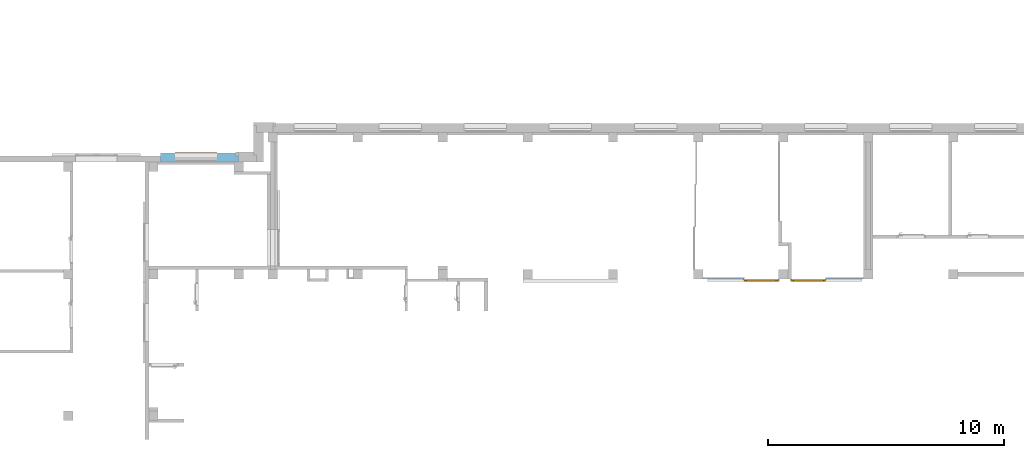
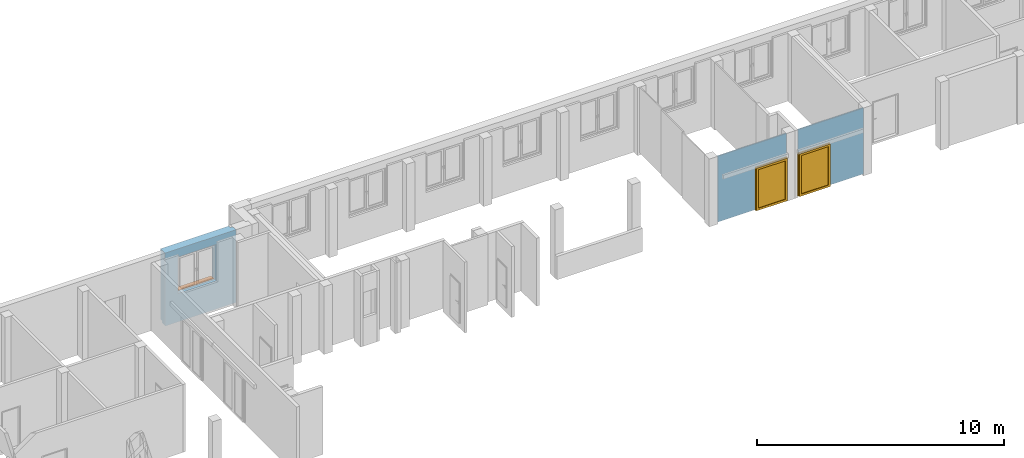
# One storey, part 33 of 37: 2 doors, 1 proxy, 3 openings, plus 3 elements that do not belong to this part.
"""IFC4 building model written with IfcOpenShell, lengths in metres."""

import ifcopenshell
import ifcopenshell.guid

model = None  # the IFC model being written
_history = None  # IfcOwnerHistory: only IFC2X3 demands one
_inside = {}  # id of a spatial element -> (the spatial element, [elements in it])
_under = {}  # id of a project, library or spatial element -> (it, [spatial elements below it])
_declared = {}  # id of a project -> (the project, [libraries it declares])
_typed = {}  # id of a type object -> (the type object, [elements of that type])
_made_of = {}  # id of a material, layer set ... -> (it, [elements and type objects made of it])


def new_model(schema):
    """Start an empty IFC model of exactly this schema.

    Asked for "IFC4X3", IfcOpenShell would pick the latest addendum, in which some entities
    have other attributes; the version numbers below select the first issue.
    IFC2X3 requires an IfcOwnerHistory on every rooted entity: one is made here for all.
    """
    global model, _history
    if schema == "IFC4X3":
        model = ifcopenshell.file(schema_version=(4, 3, 0, 0))
    else:
        model = ifcopenshell.file(schema=schema)
    _inside.clear()
    _under.clear()
    _declared.clear()
    _typed.clear()
    _made_of.clear()
    _history = None
    if model.schema == "IFC2X3":
        org = make("IfcOrganization", Name="unknown")
        user = make(
            "IfcPersonAndOrganization",
            ThePerson=make("IfcPerson", FamilyName="unknown"),
            TheOrganization=org,
        )
        app = make(
            "IfcApplication",
            ApplicationDeveloper=org,
            Version="unknown",
            ApplicationFullName="unknown",
            ApplicationIdentifier="unknown",
        )
        _history = make(
            "IfcOwnerHistory",
            OwningUser=user,
            OwningApplication=app,
            ChangeAction="ADDED",
            CreationDate=0,
        )
    return model


def make(cls, **values):
    """One entity of the class cls with the attributes given. An attribute that is None is left unset."""
    return model.create_entity(
        cls, **{name: value for name, value in values.items() if value is not None}
    )


def entity(cls, *values):
    """Any entity or typed value of the class cls, its attributes in the order of the schema. None: left unset."""
    e = model.create_entity(cls)
    for i, value in enumerate(values):
        if value is not None:
            e[i] = value
    return e


def rooted(cls, **values):
    """An entity with a GlobalId (a new one), such as an element, a storey or a relation."""
    return make(cls, GlobalId=ifcopenshell.guid.new(), OwnerHistory=_history, **values)


def si_unit(unit_type, name, prefix=None):
    """IfcSIUnit, for example si_unit("LENGTHUNIT", "METRE", prefix="MILLI")."""
    return make("IfcSIUnit", UnitType=unit_type, Prefix=prefix, Name=name)


def converted_unit(unit_type, name, factor, base, dimensions=None, offset=None):
    """IfcConversionBasedUnit, such as the inch: factor (a typed value) times the base unit."""
    return make(
        "IfcConversionBasedUnit"
        if offset is None
        else "IfcConversionBasedUnitWithOffset",
        ConversionOffset=offset,
        Dimensions=None
        if dimensions is None
        else entity("IfcDimensionalExponents", *dimensions),
        UnitType=unit_type,
        Name=name,
        ConversionFactor=make(
            "IfcMeasureWithUnit", ValueComponent=factor, UnitComponent=base
        ),
    )


def derived_unit(unit_type, elements):
    """IfcDerivedUnit: a product of units, each with its exponent."""
    return make(
        "IfcDerivedUnit",
        Elements=[
            make("IfcDerivedUnitElement", Unit=unit, Exponent=power)
            for unit, power in elements
        ],
        UnitType=unit_type,
    )


def assignment(units):
    """IfcUnitAssignment: the units of a project."""
    return None if units is None else make("IfcUnitAssignment", Units=units)


def point(xyz):
    """IfcCartesianPoint."""
    return None if xyz is None else make("IfcCartesianPoint", Coordinates=xyz)


def direction(xyz):
    """IfcDirection."""
    return None if xyz is None else make("IfcDirection", DirectionRatios=xyz)


def frame(location, z_axis=None, x_axis=None):
    """IfcAxis2Placement3D, a coordinate frame: its origin and axes. An axis left out is left unset."""
    return make(
        "IfcAxis2Placement3D",
        Location=point(location),
        Axis=direction(z_axis),
        RefDirection=direction(x_axis),
    )


def frame_2d(location, x_axis=None):
    """IfcAxis2Placement2D, a coordinate frame in the plane: its origin and x axis."""
    return make(
        "IfcAxis2Placement2D", Location=point(location), RefDirection=direction(x_axis)
    )


def origin():
    """The frame at (0, 0, 0) with its axes left unset."""
    return frame((0.0, 0.0, 0.0))


def origin_with_axes():
    """The frame at (0, 0, 0) with the z axis (0, 0, 1) and the x axis (1, 0, 0) written out."""
    return frame((0.0, 0.0, 0.0), z_axis=(0.0, 0.0, 1.0), x_axis=(1.0, 0.0, 0.0))


def place(relative_to, where):
    """IfcLocalPlacement: puts the frame where relative to a parent placement (None: the world)."""
    return make(
        "IfcLocalPlacement", PlacementRelTo=relative_to, RelativePlacement=where
    )


def context(
    kind, dimensions, precision=None, world=None, true_north=None, identifier=None
):
    """IfcGeometricRepresentationContext, for example the 3D "Model" context."""
    return make(
        "IfcGeometricRepresentationContext",
        ContextIdentifier=identifier,
        ContextType=kind,
        CoordinateSpaceDimension=dimensions,
        Precision=precision,
        WorldCoordinateSystem=world,
        TrueNorth=true_north,
    )


def subcontext(parent, identifier, kind, view, scale=None):
    """IfcGeometricRepresentationSubContext, for example "Body" below "Model"."""
    return make(
        "IfcGeometricRepresentationSubContext",
        ContextIdentifier=identifier,
        ContextType=kind,
        ParentContext=parent,
        TargetScale=scale,
        TargetView=view,
    )


def project(units=None, contexts=None):
    """IfcProject with its units and contexts."""
    return rooted(
        "IfcProject",
        Name="project",
        RepresentationContexts=contexts,
        UnitsInContext=assignment(units),
    )


def spatial(cls, under=None, at=None, **own):
    """A site, building, storey or space (cls), placed at a placement, below another one or the project."""
    s = rooted(cls, ObjectPlacement=at, **own)
    if under is not None:
        _under.setdefault(under.id(), (under, []))[1].append(s)
    return s


def polyline(points):
    """IfcPolyline through the points."""
    return make("IfcPolyline", Points=[point(p) for p in points])


def profile(cls, at=None, kind="AREA", **sizes):
    """A parametric profile (cls). Its sizes go by their IFC names, for example OverallWidth=200.0."""
    return make(cls, ProfileType=kind, Position=at, **sizes)


def rectangle(**sizes):
    """IfcRectangleProfileDef."""
    return profile("IfcRectangleProfileDef", **sizes)


def outline(outer, holes=None, kind="AREA"):
    """IfcArbitraryClosedProfileDef: a profile drawn as a closed curve; with holes, ...WithVoids."""
    if holes is None:
        return make("IfcArbitraryClosedProfileDef", ProfileType=kind, OuterCurve=outer)
    return make(
        "IfcArbitraryProfileDefWithVoids",
        ProfileType=kind,
        OuterCurve=outer,
        InnerCurves=holes,
    )


def extrude(swept, where, along, depth):
    """IfcExtrudedAreaSolid: the profile swept, set in the frame where, extruded along a direction by depth."""
    return make(
        "IfcExtrudedAreaSolid",
        SweptArea=swept,
        Position=where,
        ExtrudedDirection=direction(along),
        Depth=depth,
    )


def clip(a, b, op="DIFFERENCE"):
    """IfcBooleanClippingResult: the solid a cut by the half space b."""
    return make(
        "IfcBooleanClippingResult", Operator=op, FirstOperand=a, SecondOperand=b
    )


def bounded_halfspace(plane, agree, where, boundary):
    """IfcPolygonalBoundedHalfSpace: a half space limited to a polygon's prism."""
    return make(
        "IfcPolygonalBoundedHalfSpace",
        BaseSurface=make("IfcPlane", Position=plane),
        AgreementFlag=agree,
        Position=where,
        PolygonalBoundary=boundary,
    )


def faces_of(points, faces, orient=None, outer=None):
    """IfcFace entities. A face is a list of loops; a loop is a list of indices into points, from 0.

    orient and outer hold one flag for each loop. By default every Orientation is true, the
    first loop of a face is its IfcFaceOuterBound and the others are IfcFaceBound.
    """
    made = []
    for i, loops in enumerate(faces):
        bounds = []
        for j, loop in enumerate(loops):
            is_outer = j == 0 if outer is None else outer[i][j]
            bounds.append(
                make(
                    "IfcFaceOuterBound" if is_outer else "IfcFaceBound",
                    Bound=make("IfcPolyLoop", Polygon=[points[k] for k in loop]),
                    Orientation=True if orient is None else orient[i][j],
                )
            )
        made.append(make("IfcFace", Bounds=bounds))
    return made


def closed_shell(faces, orient=None, outer=None):
    """The faces of one IfcClosedShell. faceted_brep and surface_model build it on their shared points."""
    return ("IfcClosedShell", faces, orient, outer)


def open_shell(faces, orient=None, outer=None):
    """The faces of one IfcOpenShell. surface_model builds it on its shared points."""
    return ("IfcOpenShell", faces, orient, outer)


def faceted_brep(points, faces, orient=None, outer=None, voids=None):
    """IfcFacetedBrep: a solid bounded by flat faces; with voids (closed shells), ...WithVoids."""
    shared = [point(p) for p in points]
    hull = make("IfcClosedShell", CfsFaces=faces_of(shared, faces, orient, outer))
    if voids is None:
        return make("IfcFacetedBrep", Outer=hull)
    return make(
        "IfcFacetedBrepWithVoids",
        Outer=hull,
        Voids=[
            make(cls, CfsFaces=faces_of(shared, fs, o, b)) for cls, fs, o, b in voids
        ],
    )


def surface_model(cls, points, shells):
    """IfcFaceBasedSurfaceModel or IfcShellBasedSurfaceModel (cls): surfaces that need not close."""
    shared = [point(p) for p in points]
    made = [make(c, CfsFaces=faces_of(shared, fs, o, b)) for c, fs, o, b in shells]
    if cls == "IfcFaceBasedSurfaceModel":
        return make(cls, FbsmFaces=made)
    return make(cls, SbsmBoundary=made)


def shape(context_of_items, identifier, shape_type, items):
    """IfcShapeRepresentation: the items that make up one representation, for example the "Body"."""
    return make(
        "IfcShapeRepresentation",
        ContextOfItems=context_of_items,
        RepresentationIdentifier=identifier,
        RepresentationType=shape_type,
        Items=items,
    )


def source(mapping_origin, context_of_items, identifier, shape_type, items):
    """IfcRepresentationMap: a shape defined once, which mapped items show again and again."""
    return make(
        "IfcRepresentationMap",
        MappingOrigin=mapping_origin,
        MappedRepresentation=shape(context_of_items, identifier, shape_type, items),
    )


def transform(
    local_origin,
    x_axis=None,
    y_axis=None,
    z_axis=None,
    scale=None,
    scale2=None,
    scale3=None,
    uniform=True,
):
    """IfcCartesianTransformationOperator3D, or its non-uniform kind. x_axis, y_axis, z_axis: its Axis1, 2, 3."""
    if uniform:
        return make(
            "IfcCartesianTransformationOperator3D",
            Axis1=direction(x_axis),
            Axis2=direction(y_axis),
            LocalOrigin=point(local_origin),
            Scale=scale,
            Axis3=direction(z_axis),
        )
    return make(
        "IfcCartesianTransformationOperator3DnonUniform",
        Axis1=direction(x_axis),
        Axis2=direction(y_axis),
        LocalOrigin=point(local_origin),
        Scale=scale,
        Axis3=direction(z_axis),
        Scale2=scale2,
        Scale3=scale3,
    )


def mapped(mapping_source, mapping_target):
    """IfcMappedItem: shows the shape of a source again, moved by a transform."""
    return make(
        "IfcMappedItem", MappingSource=mapping_source, MappingTarget=mapping_target
    )


def material(Name=None, Category=None):
    """IfcMaterial."""
    return make("IfcMaterial", Name=Name, Category=Category)


def layer(
    of_material, thickness, ventilated=None, Name=None, Category=None, Priority=None
):
    """IfcMaterialLayer: one layer of a wall or slab, of a material (None: an air gap)."""
    return make(
        "IfcMaterialLayer",
        Material=of_material,
        LayerThickness=thickness,
        IsVentilated=ventilated,
        Name=Name,
        Category=Category,
        Priority=Priority,
    )


def layer_set(layers, Name=None):
    """IfcMaterialLayerSet."""
    return make("IfcMaterialLayerSet", MaterialLayers=layers, LayerSetName=Name)


def layer_usage(for_layer_set, set_direction, sense, offset, extent=None):
    """IfcMaterialLayerSetUsage: how a layer set lies in its element."""
    return make(
        "IfcMaterialLayerSetUsage",
        ForLayerSet=for_layer_set,
        LayerSetDirection=set_direction,
        DirectionSense=sense,
        OffsetFromReferenceLine=offset,
        ReferenceExtent=extent,
    )


def made_of(thing, what):
    """Note that an element or type object is made of a material, layer set ...; save() writes the relation."""
    if what is not None:
        _made_of.setdefault(what.id(), (what, []))[1].append(thing)
    return thing


def type_object(cls, material=None, **own):
    """A type object (cls), such as IfcWallType, which elements share."""
    return made_of(rooted(cls, **own), material)


def element(
    cls,
    number,
    at=None,
    inside=None,
    cuts=None,
    type_object=None,
    material=None,
    context=None,
    identifier="Body",
    shape_type=None,
    held_by="IfcProductDefinitionShape",
    body=None,
    shapes=None,
    **own,
):
    """One element of the class cls, such as IfcWall. Its Tag is "e" and its number.

    at: its placement. inside: the storey or other place that contains it. cuts: it is an
    opening in that element (IfcRelVoidsElement). A single representation is given by context,
    identifier, shape_type and body (its items); several are given by shapes. held_by: the class
    of the entity that holds the representations. save() writes the other relations.
    """
    e = rooted(cls, Tag="e%d" % number, ObjectPlacement=at, **own)
    if body is not None:
        shapes = [shape(context, identifier, shape_type, body)]
    if shapes is not None:
        e.Representation = make(held_by, Representations=shapes)
    if inside is not None:
        _inside.setdefault(inside.id(), (inside, []))[1].append(e)
    if cuts is not None:
        rooted(
            "IfcRelVoidsElement", RelatingBuildingElement=cuts, RelatedOpeningElement=e
        )
    if type_object is not None:
        _typed.setdefault(type_object.id(), (type_object, []))[1].append(e)
    return made_of(e, material)


def fill(opening, filler):
    """IfcRelFillsElement: the door or window that sits in an opening."""
    return rooted(
        "IfcRelFillsElement",
        RelatingOpeningElement=opening,
        RelatedBuildingElement=filler,
    )


def aggregate(whole, parts):
    """IfcRelAggregates: a whole, such as a stair, and the parts it consists of."""
    return rooted("IfcRelAggregates", RelatingObject=whole, RelatedObjects=parts)


def save(model, path):
    """Write the relations noted so far, then the file.

    IfcRelAggregates (storeys below a building ...), IfcRelContainedInSpatialStructure (elements
    in a storey), IfcRelDefinesByType, IfcRelAssociatesMaterial and IfcRelDeclares: one each for
    every whole, place, type object, material and project.
    """
    for whole, parts in _under.values():
        aggregate(whole, parts)
    for where, things in _inside.values():
        rooted(
            "IfcRelContainedInSpatialStructure",
            RelatedElements=things,
            RelatingStructure=where,
        )
    for kind, things in _typed.values():
        rooted("IfcRelDefinesByType", RelatedObjects=things, RelatingType=kind)
    for what, things in _made_of.values():
        rooted("IfcRelAssociatesMaterial", RelatedObjects=things, RelatingMaterial=what)
    for by, libraries in _declared.values():
        rooted("IfcRelDeclares", RelatingContext=by, RelatedDefinitions=libraries)
    model.write(path)


model = new_model("IFC4")

# Units and contexts
model_context = context("Model", 3, precision=1e-05, world=origin())
body_context = subcontext(model_context, "Body", "Model", "MODEL_VIEW")
ifc_project = project(units=[si_unit("LENGTHUNIT", "METRE"), si_unit("AREAUNIT", "SQUARE_METRE"), si_unit("VOLUMEUNIT", "CUBIC_METRE"), si_unit("MASSUNIT", "GRAM", prefix="KILO"), converted_unit("PLANEANGLEUNIT", "DEGREE", entity("IfcPlaneAngleMeasure", 0.0174532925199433), si_unit("PLANEANGLEUNIT", "RADIAN"), dimensions=[0, 0, 0, 0, 0, 0, 0]), derived_unit("THERMALTRANSMITTANCEUNIT", [(si_unit("POWERUNIT", "WATT"), 1), (si_unit("THERMODYNAMICTEMPERATUREUNIT", "KELVIN"), -1), (si_unit("LENGTHUNIT", "METRE"), -2)]), derived_unit("VOLUMETRICFLOWRATEUNIT", [(si_unit("LENGTHUNIT", "METRE"), 3), (converted_unit("TIMEUNIT", "hour", entity("IfcTimeMeasure", 3600.0), si_unit("TIMEUNIT", "SECOND"), dimensions=[0, 0, 1, 0, 0, 0, 0]), -1), (si_unit("LENGTHUNIT", "METRE"), -1)])], contexts=[model_context])

# Site, building, storey
site_placement = place(None, origin())
site = spatial("IfcSite", under=ifc_project, at=site_placement, Name="3. ASŘ", CompositionType="ELEMENT")
building_placement = place(site_placement, origin())
building = spatial("IfcBuilding", under=site, at=building_placement, Name="Pavilon B", CompositionType="ELEMENT")
storey_placement = place(building_placement, origin())
storey = spatial("IfcBuildingStorey", under=building, at=storey_placement, Name="Půdorys 1.NP", CompositionType="ELEMENT", Elevation=0.0)

# Wall, opening, proxy
ifc_material_1 = material(Name="ZELEZOBETONOVÁ KCE")
ifc_layer_1 = layer(ifc_material_1, 0.249999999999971)
ifc_material_2 = material(Name="MINERÁLNÍ VATA")
ifc_layer_2 = layer(ifc_material_2, 0.119999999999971)
ifc_layer_set_1 = layer_set([ifc_layer_1, ifc_layer_2])
ifc_layer_usage_1 = layer_usage(ifc_layer_set_1, "AXIS2", "POSITIVE", 0.0)
wall_1_placement = place(storey_placement, frame((44.35, -16.85, -0.1)))
wall_1 = element("IfcWall", 1, at=wall_1_placement, inside=storey, material=ifc_layer_usage_1, Name="ZELEZOBETONOVÁ KCE", context=body_context, shape_type="Clipping", body=[
    clip(extrude(outline(polyline([(0.0, 0.0), (3.3, 0.0), (3.3, 0.249999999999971), (3.18, 0.249999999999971), (3.18, 0.369999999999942), (0.0, 0.369999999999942), (0.0, 0.0)])), origin_with_axes(), (0.0, 0.0, 1.0), 3.6), bounded_halfspace(frame((1.59, 0.309999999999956, 0.1), z_axis=(0.0, 0.0, 1.0), x_axis=(0.0, -1.0, 0.0)), True, origin_with_axes(), polyline([(0.0, 0.369999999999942), (0.0, 0.249999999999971), (3.18, 0.249999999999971), (3.18, 0.369999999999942), (0.0, 0.369999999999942)]))),
])
opening_1_placement = place(wall_1_placement, frame((2.4, 0.37, 1.4), z_axis=(0.0, -1.0, 0.0), x_axis=(0.0, 0.0, 1.0)))
opening_1 = element("IfcOpeningElement", 2, at=opening_1_placement, cuts=wall_1, Name="Okenní otvor", ObjectType="Opening", context=body_context, shape_type="SweptSolid", body=[
    extrude(outline(polyline([(0.0, 1.8), (1.8, 1.8), (1.8, 0.0), (0.0, 0.0), (0.0, 1.8)])), origin_with_axes(), (0.0, 0.0, 1.0), 0.12),
    extrude(outline(polyline([(0.0, 1.8), (1.8, 1.8), (1.8, 0.0), (0.0, 0.0), (0.0, 1.8)])), frame((0.0, 0.0, 0.12), z_axis=(0.0, 0.0, 1.0), x_axis=(1.0, 0.0, 0.0)), (0.0, 0.0, 1.0), 0.25),
])
ifc_material_3 = material(Name="PLECH")
shared_shape_1 = source(origin_with_axes(), body_context, "Body", "Brep", [
    faceted_brep([(1.76, 0.0, 0.0), (1.76, 0.0, 0.005), (1.76, 0.2, 0.005), (1.76, 0.2, 0.0), (0.04, 0.0, 0.0), (0.04, 0.2, 0.0), (0.04, 0.2, 0.005), (0.04, 0.0, 0.005), (0.02, 0.0, 0.0), (0.02, -0.035, 0.0), (1.78, -0.035, 0.0), (1.78, 0.0, 0.0), (1.78, 0.0, 0.005), (1.78, -0.04, 0.005), (0.02, -0.04, 0.005), (0.02, 0.0, 0.005), (1.78, -0.035, -0.025), (1.78, -0.04, -0.025), (0.02, -0.04, -0.025), (0.02, -0.035, -0.025)], [[[0, 1, 2, 3]], [[4, 5, 6, 7]], [[3, 5, 4, 8, 9, 10, 11, 0]], [[2, 6, 5, 3]], [[1, 12, 13, 14, 15, 7, 6, 2]], [[11, 10, 16, 17, 13, 12]], [[8, 15, 14, 18, 19, 9]], [[12, 1, 0, 11]], [[7, 15, 8, 4]], [[17, 18, 14, 13]], [[16, 19, 18, 17]], [[10, 9, 19, 16]]], orient=[[False], [False], [False], [False], [False], [False], [False], [False], [False], [False], [False], [False]]),
    faceted_brep([(1.78, 0.0, 0.0), (1.78, 0.0, 0.005), (1.78, 0.2, 0.005), (1.78, 0.2, 0.0), (1.76, 0.0, 0.0), (1.76, 0.2, 0.0), (1.76, 0.2, 0.005), (1.76, 0.0, 0.005)], [[[0, 1, 2, 3]], [[4, 5, 6, 7]], [[3, 5, 4, 0]], [[2, 6, 5, 3]], [[1, 7, 6, 2]], [[0, 4, 7, 1]]], orient=[[False], [False], [False], [False], [False], [False]]),
    faceted_brep([(0.04, 0.0, 0.0), (0.04, 0.0, 0.005), (0.04, 0.2, 0.005), (0.04, 0.2, 0.0), (0.02, 0.0, 0.0), (0.02, 0.2, 0.0), (0.02, 0.2, 0.005), (0.02, 0.0, 0.005)], [[[0, 1, 2, 3]], [[4, 5, 6, 7]], [[3, 5, 4, 0]], [[2, 6, 5, 3]], [[1, 7, 6, 2]], [[0, 4, 7, 1]]], orient=[[False], [False], [False], [False], [False], [False]]),
])
proxy_placement = place(opening_1_placement, frame((0.0, 0.0, 0.0), z_axis=(1.0, 0.0, 0.0), x_axis=(0.0, 1.0, 0.0)))
proxy = element("IfcBuildingElementProxy", 3, at=proxy_placement, inside=storey, material=ifc_material_3, Name="Parapet vnější", context=body_context, shape_type="MappedRepresentation", body=[
    mapped(shared_shape_1, transform((0.0, 0.0, 0.0), x_axis=(1.0, 0.0, 0.0), y_axis=(0.0, 1.0, 0.0), z_axis=(0.0, 0.0, 1.0), scale=1.0)),
])
fill(opening_1, proxy)

# Wall, opening, door
ifc_material_4 = material(Name="PROSKLENÁ PŘÍČKA JEDNODUCHÁ")
ifc_layer_3 = layer(ifc_material_4, 0.05)
ifc_layer_set_2 = layer_set([ifc_layer_3])
ifc_layer_usage_2 = layer_usage(ifc_layer_set_2, "AXIS2", "POSITIVE", 0.0)
wall_2_placement = place(storey_placement, frame((71.05, -21.8, 0.0)))
wall_2 = element("IfcWall", 4, at=wall_2_placement, inside=storey, material=ifc_layer_usage_2, Name="PROSKLENÁ PŘÍČKA JEDNODUCHÁ", context=body_context, shape_type="SweptSolid", body=[
    extrude(rectangle(XDim=3.05, YDim=0.05, at=frame_2d((1.525, 0.025), x_axis=(1.0, 0.0))), origin_with_axes(), (0.0, 0.0, 1.0), 3.25),
])
opening_2_placement = place(wall_2_placement, frame((0.0, 0.0, 0.0), z_axis=(0.0, 1.0, 0.0), x_axis=(0.0, 0.0, 1.0)))
opening_2 = element("IfcOpeningElement", 5, at=opening_2_placement, cuts=wall_2, Name="Dveřní otvor", ObjectType="Opening", context=body_context, shape_type="SweptSolid", body=[
    extrude(outline(polyline([(0.0, 1.45), (2.1, 1.45), (2.1, 0.0), (0.0, 0.0), (0.0, 1.45)])), origin_with_axes(), (0.0, 0.0, 1.0), 0.05),
])
door_type_1 = type_object("IfcDoorType", Name="D401", OperationType="NOTDEFINED", ParameterTakesPrecedence=False, PredefinedType="DOOR")
shared_shape_2 = source(origin_with_axes(), body_context, "Body", "SurfaceModel", [
    surface_model("IfcShellBasedSurfaceModel", [(0.0, 0.0500000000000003, 2.12), (0.0, 0.05, 1.11492377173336e-17), (0.02, 0.05, 1.11492377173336e-17), (0.02, 0.0500000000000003, 2.12), (0.0, 0.0, 1.72724717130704e-17), (0.0, 2.62900812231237e-16, 2.12), (0.02, 2.62900812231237e-16, 2.12), (0.02, 0.0, 1.72724717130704e-17)], [closed_shell([[[0, 1, 2, 3]], [[4, 5, 6, 7]], [[1, 0, 5, 4]], [[2, 1, 4, 7]], [[3, 2, 7, 6]], [[0, 3, 6, 5]]], orient=[[False], [False], [False], [False], [False], [False]])]),
    surface_model("IfcShellBasedSurfaceModel", [(1.47, 0.0500000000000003, 2.12), (1.47, 0.05, 1.11492377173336e-17), (1.49, 0.05, 1.11492377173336e-17), (1.49, 0.0500000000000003, 2.12), (1.47, 0.0, 1.72724717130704e-17), (1.47, 2.62900812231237e-16, 2.12), (1.49, 2.62900812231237e-16, 2.12), (1.49, 0.0, 1.72724717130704e-17)], [closed_shell([[[0, 1, 2, 3]], [[4, 5, 6, 7]], [[1, 0, 5, 4]], [[2, 1, 4, 7]], [[3, 2, 7, 6]], [[0, 3, 6, 5]]], orient=[[False], [False], [False], [False], [False], [False]])]),
    surface_model("IfcShellBasedSurfaceModel", [(0.02, 0.0500000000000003, 2.12), (0.02, 0.0500000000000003, 2.1), (1.47, 0.0500000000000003, 2.1), (1.47, 0.0500000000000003, 2.12), (0.02, 2.55795384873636e-16, 2.1), (0.02, 2.55795384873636e-16, 2.12), (1.47, 2.55795384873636e-16, 2.12), (1.47, 2.55795384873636e-16, 2.1)], [closed_shell([[[0, 1, 2, 3]], [[4, 5, 6, 7]], [[1, 0, 5, 4]], [[2, 1, 4, 7]], [[3, 2, 7, 6]], [[0, 3, 6, 5]]], orient=[[False], [False], [False], [False], [False], [False]])]),
    surface_model("IfcShellBasedSurfaceModel", [(0.02, 0.1, 2.1), (0.02, 0.1, 5.02600372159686e-18), (0.12, 0.1, 5.02600372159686e-18), (0.12, 0.1, 2.1), (0.02, 0.05, 1.11492377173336e-17), (0.02, 0.0500000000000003, 2.1), (0.12, 0.0500000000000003, 2.1), (0.12, 0.05, 1.11492377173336e-17)], [closed_shell([[[0, 1, 2, 3]], [[4, 5, 6, 7]], [[1, 0, 5, 4]], [[2, 1, 4, 7]], [[3, 2, 7, 6]], [[0, 3, 6, 5]]], orient=[[False], [False], [False], [False], [False], [False]])]),
    surface_model("IfcShellBasedSurfaceModel", [(1.37, 0.1, 2.1), (1.37, 0.1, 5.02600372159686e-18), (1.47, 0.1, 5.02600372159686e-18), (1.47, 0.1, 2.1), (1.37, 0.05, 1.11492377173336e-17), (1.37, 0.0500000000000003, 2.1), (1.47, 0.0500000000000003, 2.1), (1.47, 0.05, 1.11492377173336e-17)], [closed_shell([[[0, 1, 2, 3]], [[4, 5, 6, 7]], [[1, 0, 5, 4]], [[2, 1, 4, 7]], [[3, 2, 7, 6]], [[0, 3, 6, 5]]], orient=[[False], [False], [False], [False], [False], [False]])]),
    surface_model("IfcShellBasedSurfaceModel", [(0.12, 0.1, 0.1), (0.12, 0.1, 5.02600372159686e-18), (1.37, 0.1, 5.02600372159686e-18), (1.37, 0.1, 0.1), (0.12, 0.05, 1.11492377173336e-17), (0.12, 0.05, 0.1), (1.37, 0.05, 0.1), (1.37, 0.05, 1.11492377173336e-17)], [closed_shell([[[0, 1, 2, 3]], [[4, 5, 6, 7]], [[1, 0, 5, 4]], [[2, 1, 4, 7]], [[3, 2, 7, 6]], [[0, 3, 6, 5]]], orient=[[False], [False], [False], [False], [False], [False]])]),
    surface_model("IfcShellBasedSurfaceModel", [(0.12, 0.1, 2.1), (0.12, 0.1, 2.0), (1.37, 0.1, 2.0), (1.37, 0.1, 2.1), (0.12, 0.0500000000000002, 2.0), (0.12, 0.0500000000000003, 2.1), (1.37, 0.0500000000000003, 2.1), (1.37, 0.0500000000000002, 2.0)], [closed_shell([[[0, 1, 2, 3]], [[4, 5, 6, 7]], [[1, 0, 5, 4]], [[2, 1, 4, 7]], [[3, 2, 7, 6]], [[0, 3, 6, 5]]], orient=[[False], [False], [False], [False], [False], [False]])]),
    surface_model("IfcShellBasedSurfaceModel", [(0.12, 0.075, 0.1), (1.37, 0.075, 0.1), (1.37, 0.0750000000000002, 2.0), (0.12, 0.0750000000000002, 2.0)], [open_shell([[[0, 1, 2, 3]]], orient=[[False]])]),
])
door_1_placement = place(opening_2_placement, frame((0.0, 1.47, 0.0), z_axis=(1.0, 0.0, 0.0), x_axis=(0.0, -1.0, 1.22464679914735e-16)))
door_1 = element("IfcDoor", 6, at=door_1_placement, inside=storey, type_object=door_type_1, Name="D401", OverallHeight=2.14, OverallWidth=1.53, context=body_context, shape_type="MappedRepresentation", body=[
    mapped(shared_shape_2, transform((0.0, 0.0, 0.0), x_axis=(1.0, 0.0, 0.0), y_axis=(0.0, 1.0, 0.0), z_axis=(0.0, 0.0, 1.0), scale=1.0)),
])
fill(opening_2, door_1)

ifc_material_5 = material(Name="PROSKLENÁ PŘÍČKA JEDNODUCHÁ")
ifc_layer_4 = layer(ifc_material_5, 0.05)
ifc_layer_set_3 = layer_set([ifc_layer_4])
ifc_layer_usage_3 = layer_usage(ifc_layer_set_3, "AXIS2", "POSITIVE", 0.0)
wall_3_placement = place(storey_placement, frame((67.3, -21.8, 0.0)))
wall_3 = element("IfcWall", 7, at=wall_3_placement, inside=storey, material=ifc_layer_usage_3, Name="PROSKLENÁ PŘÍČKA JEDNODUCHÁ", context=body_context, shape_type="SweptSolid", body=[
    extrude(rectangle(XDim=3.2, YDim=0.05, at=frame_2d((1.6, 0.025), x_axis=(1.0, 0.0))), origin_with_axes(), (0.0, 0.0, 1.0), 3.25),
])
opening_3_placement = place(wall_3_placement, frame((1.75, 0.0, 0.0), z_axis=(0.0, 1.0, 0.0), x_axis=(0.0, 0.0, 1.0)))
opening_3 = element("IfcOpeningElement", 8, at=opening_3_placement, cuts=wall_3, Name="Dveřní otvor", ObjectType="Opening", context=body_context, shape_type="SweptSolid", body=[
    extrude(outline(polyline([(0.0, 1.45), (2.1, 1.45), (2.1, 0.0), (0.0, 0.0), (0.0, 1.45)])), origin_with_axes(), (0.0, 0.0, 1.0), 0.05),
])
door_type_2 = type_object("IfcDoorType", Name="D401", OperationType="NOTDEFINED", ParameterTakesPrecedence=False, PredefinedType="DOOR")
shared_shape_3 = source(origin_with_axes(), body_context, "Body", "SurfaceModel", [
    surface_model("IfcShellBasedSurfaceModel", [(0.0, 0.0500000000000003, 2.12), (0.0, 0.05, 1.11492377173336e-17), (0.02, 0.05, 1.11492377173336e-17), (0.02, 0.0500000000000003, 2.12), (0.0, 0.0, 1.72724717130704e-17), (0.0, 2.62900812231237e-16, 2.12), (0.02, 2.62900812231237e-16, 2.12), (0.02, 0.0, 1.72724717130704e-17)], [closed_shell([[[0, 1, 2, 3]], [[4, 5, 6, 7]], [[1, 0, 5, 4]], [[2, 1, 4, 7]], [[3, 2, 7, 6]], [[0, 3, 6, 5]]], orient=[[False], [False], [False], [False], [False], [False]])]),
    surface_model("IfcShellBasedSurfaceModel", [(1.47, 0.0500000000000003, 2.12), (1.47, 0.05, 1.11492377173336e-17), (1.49, 0.05, 1.11492377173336e-17), (1.49, 0.0500000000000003, 2.12), (1.47, 0.0, 1.72724717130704e-17), (1.47, 2.62900812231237e-16, 2.12), (1.49, 2.62900812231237e-16, 2.12), (1.49, 0.0, 1.72724717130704e-17)], [closed_shell([[[0, 1, 2, 3]], [[4, 5, 6, 7]], [[1, 0, 5, 4]], [[2, 1, 4, 7]], [[3, 2, 7, 6]], [[0, 3, 6, 5]]], orient=[[False], [False], [False], [False], [False], [False]])]),
    surface_model("IfcShellBasedSurfaceModel", [(0.02, 0.0500000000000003, 2.12), (0.02, 0.0500000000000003, 2.1), (1.47, 0.0500000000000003, 2.1), (1.47, 0.0500000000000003, 2.12), (0.02, 2.55795384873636e-16, 2.1), (0.02, 2.55795384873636e-16, 2.12), (1.47, 2.55795384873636e-16, 2.12), (1.47, 2.55795384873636e-16, 2.1)], [closed_shell([[[0, 1, 2, 3]], [[4, 5, 6, 7]], [[1, 0, 5, 4]], [[2, 1, 4, 7]], [[3, 2, 7, 6]], [[0, 3, 6, 5]]], orient=[[False], [False], [False], [False], [False], [False]])]),
    surface_model("IfcShellBasedSurfaceModel", [(0.02, 0.1, 2.1), (0.02, 0.1, 5.02600372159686e-18), (0.12, 0.1, 5.02600372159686e-18), (0.12, 0.1, 2.1), (0.02, 0.05, 1.11492377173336e-17), (0.02, 0.0500000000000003, 2.1), (0.12, 0.0500000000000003, 2.1), (0.12, 0.05, 1.11492377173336e-17)], [closed_shell([[[0, 1, 2, 3]], [[4, 5, 6, 7]], [[1, 0, 5, 4]], [[2, 1, 4, 7]], [[3, 2, 7, 6]], [[0, 3, 6, 5]]], orient=[[False], [False], [False], [False], [False], [False]])]),
    surface_model("IfcShellBasedSurfaceModel", [(1.37, 0.1, 2.1), (1.37, 0.1, 5.02600372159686e-18), (1.47, 0.1, 5.02600372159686e-18), (1.47, 0.1, 2.1), (1.37, 0.05, 1.11492377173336e-17), (1.37, 0.0500000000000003, 2.1), (1.47, 0.0500000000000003, 2.1), (1.47, 0.05, 1.11492377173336e-17)], [closed_shell([[[0, 1, 2, 3]], [[4, 5, 6, 7]], [[1, 0, 5, 4]], [[2, 1, 4, 7]], [[3, 2, 7, 6]], [[0, 3, 6, 5]]], orient=[[False], [False], [False], [False], [False], [False]])]),
    surface_model("IfcShellBasedSurfaceModel", [(0.12, 0.1, 0.1), (0.12, 0.1, 5.02600372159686e-18), (1.37, 0.1, 5.02600372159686e-18), (1.37, 0.1, 0.1), (0.12, 0.05, 1.11492377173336e-17), (0.12, 0.05, 0.1), (1.37, 0.05, 0.1), (1.37, 0.05, 1.11492377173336e-17)], [closed_shell([[[0, 1, 2, 3]], [[4, 5, 6, 7]], [[1, 0, 5, 4]], [[2, 1, 4, 7]], [[3, 2, 7, 6]], [[0, 3, 6, 5]]], orient=[[False], [False], [False], [False], [False], [False]])]),
    surface_model("IfcShellBasedSurfaceModel", [(0.12, 0.1, 2.1), (0.12, 0.1, 2.0), (1.37, 0.1, 2.0), (1.37, 0.1, 2.1), (0.12, 0.0500000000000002, 2.0), (0.12, 0.0500000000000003, 2.1), (1.37, 0.0500000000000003, 2.1), (1.37, 0.0500000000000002, 2.0)], [closed_shell([[[0, 1, 2, 3]], [[4, 5, 6, 7]], [[1, 0, 5, 4]], [[2, 1, 4, 7]], [[3, 2, 7, 6]], [[0, 3, 6, 5]]], orient=[[False], [False], [False], [False], [False], [False]])]),
    surface_model("IfcShellBasedSurfaceModel", [(0.12, 0.075, 0.1), (1.37, 0.075, 0.1), (1.37, 0.0750000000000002, 2.0), (0.12, 0.0750000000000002, 2.0)], [open_shell([[[0, 1, 2, 3]]], orient=[[False]])]),
])
door_2_placement = place(opening_3_placement, frame((0.0, -0.02, 0.0), z_axis=(1.0, 0.0, 0.0), x_axis=(0.0, 1.0, -1.22464679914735e-16)))
door_2 = element("IfcDoor", 9, at=door_2_placement, inside=storey, type_object=door_type_2, Name="D401", OverallHeight=2.14, OverallWidth=1.53, context=body_context, shape_type="MappedRepresentation", body=[
    mapped(shared_shape_3, transform((0.0, 0.0, 0.0), x_axis=(1.0, 0.0, 0.0), y_axis=(0.0, -1.0, 0.0), z_axis=(0.0, 0.0, 1.0), scale=1.0)),
])
fill(opening_3, door_2)

save(model, "model.ifc")
